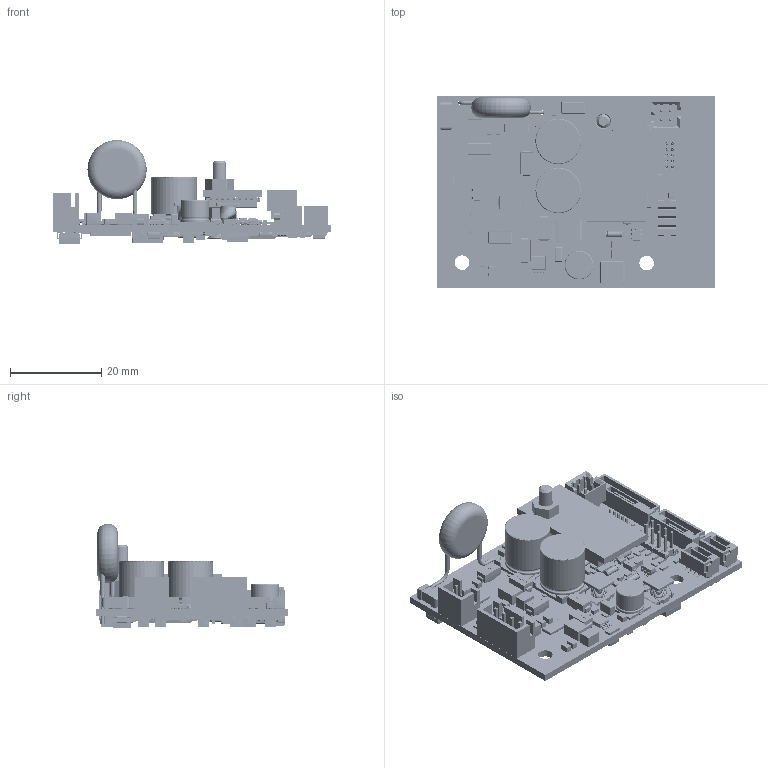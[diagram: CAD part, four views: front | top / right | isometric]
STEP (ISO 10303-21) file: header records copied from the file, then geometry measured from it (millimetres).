
FILE_DESCRIPTION((''),'2;1');
FILE_NAME('IMD02-03_IMD02DIP-02_ASM','2019-08-27T15:01:52',('Matteo Maccalli'),(''),'CREO PARAMETRIC BY PTC INC, 2017260','CREO PARAMETRIC BY PTC INC, 2017260','');
FILE_SCHEMA(('AUTOMOTIVE_DESIGN { 1 0 10303 214 1 1 1 1 }'));
Products named in the file (458): BOARD; 57202-F52-04ALFC; JMP400_ASM; CR0603; R226_ASM; CAPC1608X09; C218_ASM; C200_ASM; SMD_CAPACITORS_1210_T2E5_1; SMD_CAPACITORS_1210_T2E5_2; SMD_CAPACITORS_1210_T2E5_3; SMD_CAPACITORS_1210_T2E5_ASM; C203_ASM; SOD-123_DIODESINC; D200_ASM; CBMF1608; L203_ASM; R202_ASM; R219_ASM; R220_ASM; R221_ASM; BODY-SOT; LEAD-SOT; LEAD-DUMMY; DBV0005A_ASM; U202_ASM; R211_ASM; USER_LIBRARY-SOT363-2; IC500_ASM; C209_ASM; USER_LIBRARY-EMSOP-8_NATL_SEMI_; U200_ASM; C302_ASM; R100_ASM; R711_ASM; R710_ASM; R709_ASM; R708_ASM; R707_ASM; R706_ASM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
Assembly tree (789 placements, depth 6):
  IMD02-03_IMD02DIP-02_ASM
    PCB_ASM
      BOARD
      JMP400_ASM
        57202-F52-04ALFC
      R226_ASM
        CR0603
      C218_ASM
        CAPC1608X09
      C200_ASM
        CAPC1608X09
      C203_ASM
        SMD_CAPACITORS_1210_T2E5_ASM
          SMD_CAPACITORS_1210_T2E5_1
          SMD_CAPACITORS_1210_T2E5_2
          SMD_CAPACITORS_1210_T2E5_3
      D200_ASM
        SOD-123_DIODESINC
      L203_ASM
        CBMF1608
      R202_ASM
        CR0603
      R219_ASM
        CR0603
      R220_ASM
        CR0603
      R221_ASM
        CR0603
      U202_ASM
        DBV0005A_ASM
          BODY-SOT
          LEAD-SOT  x5
          LEAD-DUMMY
      R211_ASM
        CR0603
      IC500_ASM
        USER_LIBRARY-SOT363-2
      C209_ASM
        SMD_CAPACITORS_1210_T2E5_ASM
          SMD_CAPACITORS_1210_T2E5_1
          SMD_CAPACITORS_1210_T2E5_2
          SMD_CAPACITORS_1210_T2E5_3
      U200_ASM
        USER_LIBRARY-EMSOP-8_NATL_SEMI_
      C302_ASM
        SMD_CAPACITORS_1210_T2E5_ASM
          SMD_CAPACITORS_1210_T2E5_1
          SMD_CAPACITORS_1210_T2E5_2
          SMD_CAPACITORS_1210_T2E5_3
      R100_ASM
        CR0603
      R711_ASM
        CR0603
      R710_ASM
        CR0603
      R709_ASM
        CR0603
      R708_ASM
        CR0603
      R707_ASM
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Bounding box: 61 x 42 x 22.81 mm (x, y, z)
Volume: 10452.9 mm3; surface area: 20193.9 mm2
Topology: 542 solids, 546 shells, 20077 faces, 48930 edges, 28664 vertices
Faces by surface type: plane 10795, cylinder 5453, sphere 1624, torus 938, extrusion 858, bspline 341, cone 68
Entity records: 297526 total; most frequent: CARTESIAN_POINT 77677, DIRECTION 31468, ORIENTED_EDGE 29680, EDGE_CURVE 14842, PRESENTATION_STYLE_ASSIGNMENT 14673, STYLED_ITEM 12781, CURVE_STYLE 12122, VECTOR 11490
